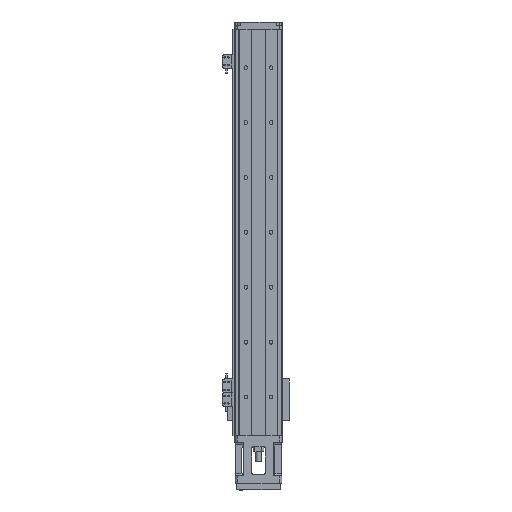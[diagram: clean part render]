
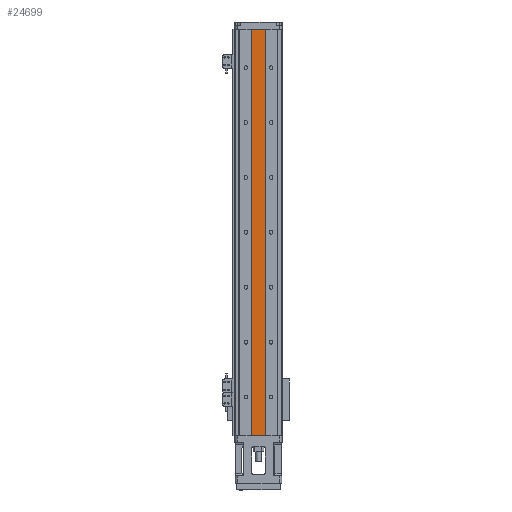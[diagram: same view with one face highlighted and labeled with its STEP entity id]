
A CAD part, front view. The second image highlights one B-rep face of the part: STEP entity #24699.
In plain terms, the highlighted planar face has unit normal (0, -1, 0).
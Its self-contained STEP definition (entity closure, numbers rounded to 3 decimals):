
#187 = CARTESIAN_POINT ( 'NONE',  ( -12.269, -13.462, 0. ) ) ;
#2521 = PLANE ( 'NONE',  #8379 ) ;
#3390 = ORIENTED_EDGE ( 'NONE', *, *, #30913, .F. ) ;
#4157 = CARTESIAN_POINT ( 'NONE',  ( -12.269, -13.462, 740. ) ) ;
#4963 = VECTOR ( 'NONE', #22286, 1000. ) ;
#5018 = DIRECTION ( 'NONE',  ( 0., 0., 1. ) ) ;
#5806 = LINE ( 'NONE', #19697, #15265 ) ;
#6355 = CARTESIAN_POINT ( 'NONE',  ( -12.269, -13.462, 0. ) ) ;
#7974 = ORIENTED_EDGE ( 'NONE', *, *, #26009, .F. ) ;
#8148 = VERTEX_POINT ( 'NONE', #6355 ) ;
#8379 = AXIS2_PLACEMENT_3D ( 'NONE', #11130, #27283, #5018 ) ;
#8802 = EDGE_CURVE ( 'NONE', #29376, #15079, #5806, .T. ) ;
#9836 = EDGE_CURVE ( 'NONE', #39355, #29376, #36636, .T. ) ;
#10416 = LINE ( 'NONE', #187, #4963 ) ;
#10712 = CARTESIAN_POINT ( 'NONE',  ( -12.269, -13.462, 740. ) ) ;
#11130 = CARTESIAN_POINT ( 'NONE',  ( -12.269, -13.462, 740. ) ) ;
#11203 = VECTOR ( 'NONE', #12274, 1000. ) ;
#12274 = DIRECTION ( 'NONE',  ( 1., 0., 0. ) ) ;
#15079 = VERTEX_POINT ( 'NONE', #30438 ) ;
#15265 = VECTOR ( 'NONE', #32250, 1000. ) ;
#15426 = VECTOR ( 'NONE', #33578, 1000. ) ;
#17020 = FACE_OUTER_BOUND ( 'NONE', #33885, .T. ) ;
#19697 = CARTESIAN_POINT ( 'NONE',  ( 11.731, -13.462, 740. ) ) ;
#19972 = ORIENTED_EDGE ( 'NONE', *, *, #9836, .F. ) ;
#20653 = CARTESIAN_POINT ( 'NONE',  ( 11.731, -13.462, 740. ) ) ;
#22286 = DIRECTION ( 'NONE',  ( -1., 0., 0. ) ) ;
#24699 = ADVANCED_FACE ( 'NONE', ( #17020 ), #2521, .F. ) ;
#26009 = EDGE_CURVE ( 'NONE', #8148, #39355, #40783, .T. ) ;
#27283 = DIRECTION ( 'NONE',  ( 0., 1., 0. ) ) ;
#27961 = ORIENTED_EDGE ( 'NONE', *, *, #8802, .F. ) ;
#29376 = VERTEX_POINT ( 'NONE', #20653 ) ;
#30438 = CARTESIAN_POINT ( 'NONE',  ( 11.731, -13.462, 0. ) ) ;
#30913 = EDGE_CURVE ( 'NONE', #15079, #8148, #10416, .T. ) ;
#31657 = CARTESIAN_POINT ( 'NONE',  ( -12.269, -13.462, 740. ) ) ;
#32250 = DIRECTION ( 'NONE',  ( 0., 0., -1. ) ) ;
#33578 = DIRECTION ( 'NONE',  ( 0., 0., 1. ) ) ;
#33885 = EDGE_LOOP ( 'NONE', ( #27961, #19972, #7974, #3390 ) ) ;
#36636 = LINE ( 'NONE', #31657, #11203 ) ;
#39355 = VERTEX_POINT ( 'NONE', #4157 ) ;
#40783 = LINE ( 'NONE', #10712, #15426 ) ;
